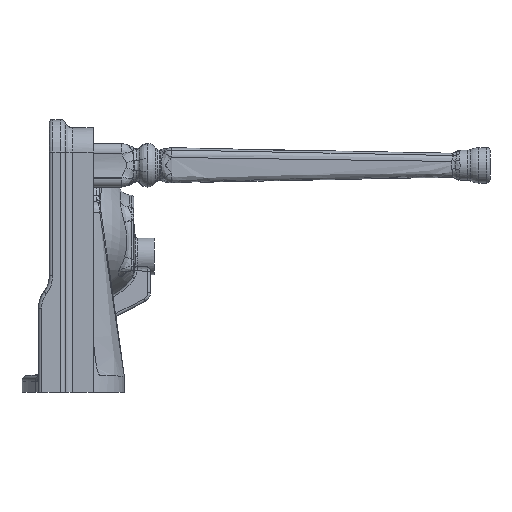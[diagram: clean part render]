
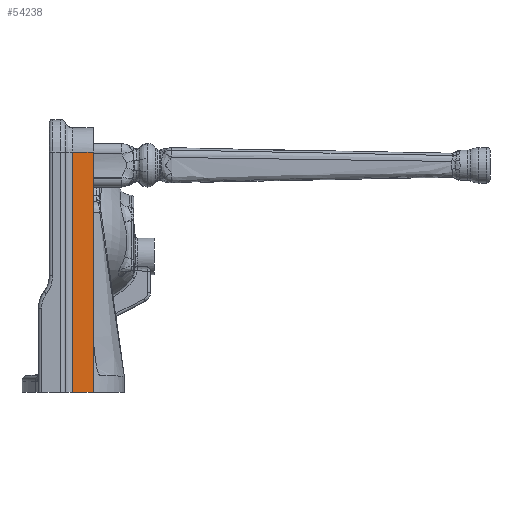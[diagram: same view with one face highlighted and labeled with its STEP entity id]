
A CAD part, left-side view. The second image highlights one B-rep face of the part: STEP entity #54238.
In plain terms, the highlighted planar face has unit normal (-1, 0, 0).
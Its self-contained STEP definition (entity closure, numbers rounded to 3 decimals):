
#949 = DIRECTION ( 'NONE',  ( 1., 0., 0. ) ) ;
#3970 = DIRECTION ( 'NONE',  ( 0., 0., -1. ) ) ;
#5671 = VECTOR ( 'NONE', #3970, 1000. ) ;
#13413 = CARTESIAN_POINT ( 'NONE',  ( 1866.019, 2166.813, -455.215 ) ) ;
#13720 = EDGE_CURVE ( 'NONE', #97591, #50807, #99407, .T. ) ;
#13936 = ORIENTED_EDGE ( 'NONE', *, *, #13720, .T. ) ;
#16489 = ORIENTED_EDGE ( 'NONE', *, *, #94197, .F. ) ;
#20930 = CARTESIAN_POINT ( 'NONE',  ( 1866.019, 2166.813, -15.221 ) ) ;
#21041 = VERTEX_POINT ( 'NONE', #90966 ) ;
#24559 = EDGE_CURVE ( 'NONE', #21041, #97591, #86286, .T. ) ;
#24985 = CARTESIAN_POINT ( 'NONE',  ( 1866.019, 2129.949, -455.215 ) ) ;
#25232 = AXIS2_PLACEMENT_3D ( 'NONE', #68985, #949, #106196 ) ;
#30740 = ORIENTED_EDGE ( 'NONE', *, *, #24559, .T. ) ;
#34829 = ORIENTED_EDGE ( 'NONE', *, *, #35228, .T. ) ;
#35228 = EDGE_CURVE ( 'NONE', #91557, #120639, #91344, .T. ) ;
#35480 = VECTOR ( 'NONE', #83614, 1000. ) ;
#41219 = CARTESIAN_POINT ( 'NONE',  ( 1866.019, 2166.813, -15.235 ) ) ;
#47903 = LINE ( 'NONE', #123589, #120221 ) ;
#49292 = CARTESIAN_POINT ( 'NONE',  ( 1866.019, 2166.813, -15.215 ) ) ;
#49920 = CARTESIAN_POINT ( 'NONE',  ( 1866.019, 2166.813, -15.228 ) ) ;
#50807 = VERTEX_POINT ( 'NONE', #94549 ) ;
#54238 = ADVANCED_FACE ( 'NONE', ( #106823 ), #118136, .F. ) ;
#58460 = EDGE_LOOP ( 'NONE', ( #16489, #34829, #103481, #30740, #13936 ) ) ;
#63595 = VECTOR ( 'NONE', #76828, 1000. ) ;
#68985 = CARTESIAN_POINT ( 'NONE',  ( 1866.019, 2179.949, -455.215 ) ) ;
#76828 = DIRECTION ( 'NONE',  ( 0., -1., 0. ) ) ;
#83007 = CARTESIAN_POINT ( 'NONE',  ( 1866.019, 2129.949, -455.215 ) ) ;
#83614 = DIRECTION ( 'NONE',  ( 0., 0., 1. ) ) ;
#86286 = LINE ( 'NONE', #124746, #63595 ) ;
#86373 = DIRECTION ( 'NONE',  ( 0., -1., 0. ) ) ;
#90966 = CARTESIAN_POINT ( 'NONE',  ( 1866.019, 2166.813, -455.215 ) ) ;
#91344 = B_SPLINE_CURVE_WITH_KNOTS ( 'NONE', 3,
 ( #49292, #20930, #49920, #107913 ),
 .UNSPECIFIED., .F., .F.,
 ( 4, 4 ),
 ( 0., 0. ),
 .UNSPECIFIED. ) ;
#91557 = VERTEX_POINT ( 'NONE', #101228 ) ;
#94197 = EDGE_CURVE ( 'NONE', #91557, #50807, #47903, .T. ) ;
#94549 = CARTESIAN_POINT ( 'NONE',  ( 1866.019, 2129.949, -15.215 ) ) ;
#97591 = VERTEX_POINT ( 'NONE', #24985 ) ;
#99407 = LINE ( 'NONE', #83007, #35480 ) ;
#99748 = LINE ( 'NONE', #13413, #5671 ) ;
#101228 = CARTESIAN_POINT ( 'NONE',  ( 1866.019, 2166.813, -15.215 ) ) ;
#103481 = ORIENTED_EDGE ( 'NONE', *, *, #107128, .T. ) ;
#106196 = DIRECTION ( 'NONE',  ( 0., 1., 0. ) ) ;
#106823 = FACE_OUTER_BOUND ( 'NONE', #58460, .T. ) ;
#107128 = EDGE_CURVE ( 'NONE', #120639, #21041, #99748, .T. ) ;
#107913 = CARTESIAN_POINT ( 'NONE',  ( 1866.019, 2166.813, -15.235 ) ) ;
#118136 = PLANE ( 'NONE',  #25232 ) ;
#120221 = VECTOR ( 'NONE', #86373, 1000. ) ;
#120639 = VERTEX_POINT ( 'NONE', #41219 ) ;
#123589 = CARTESIAN_POINT ( 'NONE',  ( 1866.019, 2179.949, -15.215 ) ) ;
#124746 = CARTESIAN_POINT ( 'NONE',  ( 1866.019, 2179.949, -455.215 ) ) ;
